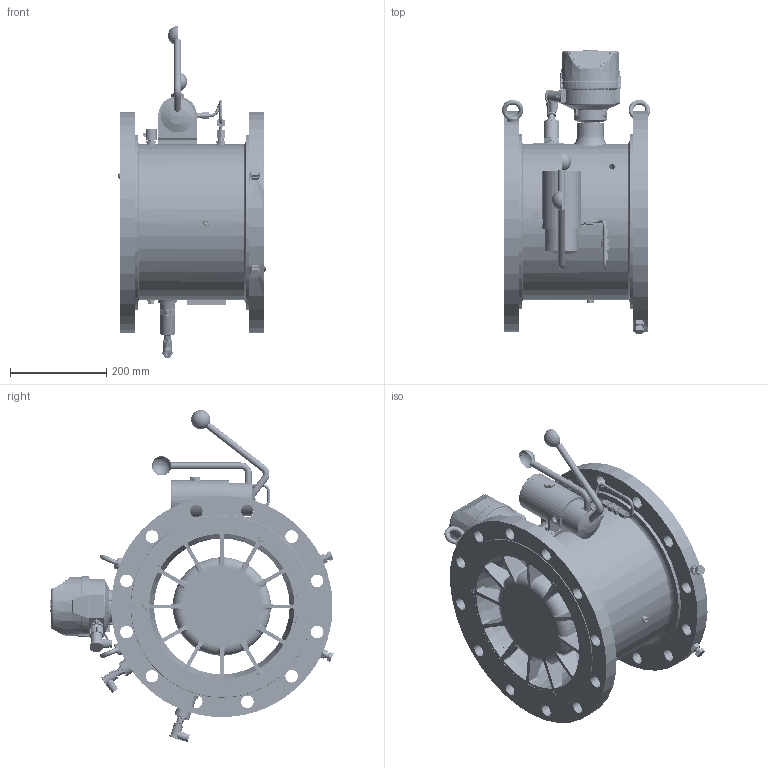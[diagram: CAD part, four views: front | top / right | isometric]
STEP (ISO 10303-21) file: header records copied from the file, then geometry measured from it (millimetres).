
FILE_DESCRIPTION((''),'2;1');
FILE_NAME('063826_1_L_ASM','2026-07-14T21:22:13',('R17543'),(''),'CREO PARAMETRIC BY PTC INC, 2024273','CREO PARAMETRIC BY PTC INC, 2024273','');
FILE_SCHEMA(('CONFIG_CONTROL_DESIGN','SHAPE_APPEARANCE_LAYERS_GROUPS'));
Products named in the file (93): 063688_1_ROHR_ROH_AF0; 063688_1_FLANSCH_ROH_AF1; 063688_1_FLANSCH_ROH_AF0; 063688_1_STUTZENNAHT_ZAHLWERK_AF0; 062903_4_V01_AF0; 063688_1_RUNDNAHT_1_AF0; 063688_1_RUNDNAHT_2_AF0; 063674_4_AF0; 063674_4_AF1; 055154_4; 933M12X35; 934M12; 063688_1_STUTZENNAHT_HF3_2_AF2; 063688_1_STUTZENNAHT_HF3_3; 063688_1_FERTIG_ASM; 062953_4; 1M6X20; O-RING_52X2_5; GEHAEUSE_TRZ03_ZWF_PED-2012; 054578_2; 965M3X6; STECKER_WINKEL_ZWF_PED-2012; STECKVERBINDER_ZWF_PED-2012; AM3X10_DIN404_ZWF_PED-2012; 84M3X8; STECKER_FA_BINDER_ZWF_PED-2012_ASM; LASCHE_ZWF_PED-2012; KERBNAGEL_ZWF_PED-2012; PLEXIGLASSCHEIBE_ZWF_PED-2012; SCHILD_SCHRAEG_ZWF_PED-2012; 551M6X10; 055027_4I; RADIALKUGELLAGER_3X7X3; 055027_4C; 055027_4F; KNEBELKERBSTIFT_2_L30; 055027_4A; 055027_4D; 055027_4B; 055027_4E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
Assembly tree (124 placements, depth 5):
  063826_1_L_ASM
    063688_1_FERTIG_ASM
      063688_1_ROHR_ROH_AF0
      063688_1_FLANSCH_ROH_AF1
      063688_1_FLANSCH_ROH_AF0
      063688_1_STUTZENNAHT_ZAHLWERK_AF0
      062903_4_V01_AF0
      063688_1_RUNDNAHT_1_AF0
      063688_1_RUNDNAHT_2_AF0
      063674_4_AF0
      063674_4_AF1
      055154_4  x2
      933M12X35  x2
      934M12  x2
      063688_1_STUTZENNAHT_HF3_2_AF2
      063688_1_STUTZENNAHT_HF3_3
    BAUGRUPPE_ZWF_PED-2012_VEREINF_ASM
      062953_4
      1M6X20  x6
      O-RING_52X2_5
      GEHAEUSE_TRZ03_ZWF_PED-2012
      054578_2
      965M3X6  x2
      STECKER_FA_BINDER_ZWF_PED-2012_ASM
        STECKER_WINKEL_ZWF_PED-2012
        STECKVERBINDER_ZWF_PED-2012
        AM3X10_DIN404_ZWF_PED-2012
        84M3X8
      LASCHE_ZWF_PED-2012
      KERBNAGEL_ZWF_PED-2012  x5
      PLEXIGLASSCHEIBE_ZWF_PED-2012
      SCHILD_SCHRAEG_ZWF_PED-2012
      551M6X10  x3
      063240_4_ASM
        055027_4I
        RADIALKUGELLAGER_3X7X3  x4
        055027_4C
        055027_4F
        KNEBELKERBSTIFT_2_L30  x2
        055027_4A
        055027_4D
        055027_4B
        055027_4E
        051409_4
        055027_4G
    DICHTRING_G1_4ZOLL  x4
    063992_4_ASM
      VERSCHR_G1_4_ERMETO_GE06SRCF
      063635_4_DN200-DN250
    PR_ANSCHLUSS_ERMETO_ASM
      DICHTRING_G1_4ZOLL
      VERSCHR_G1_4_ERMETO_GE06SRCF
      BUTZEN_BUZ_6_L_S
      060316_3_ZUSAMMENBAU_ASM
        060316_3_AF0
        060316_3_AF1
    HEBELPUMPE_RECHTS_ASM
      HANDHEBELPUMPE_HEBEL
      HANDHEBELPUMPE_BEFESTIGUNGSRING
      HANDHEBELPUMPE_DECKEL
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Bounding box: 307.97 x 588.7 x 689.36 mm (x, y, z)
Volume: 11521460.2 mm3; surface area: 2124272.9 mm2
Topology: 125 solids, 167 shells, 4089 faces, 9907 edges, 6171 vertices
Faces by surface type: plane 1523, cylinder 1437, cone 431, torus 341, bspline 207, extrusion 106, sphere 44
Entity records: 111187 total; most frequent: CARTESIAN_POINT 31712, DIRECTION 15521, ORIENTED_EDGE 14592, EDGE_CURVE 7353, AXIS2_PLACEMENT_3D 6106, VERTEX_POINT 4694, EDGE_LOOP 3497, VECTOR 3309
